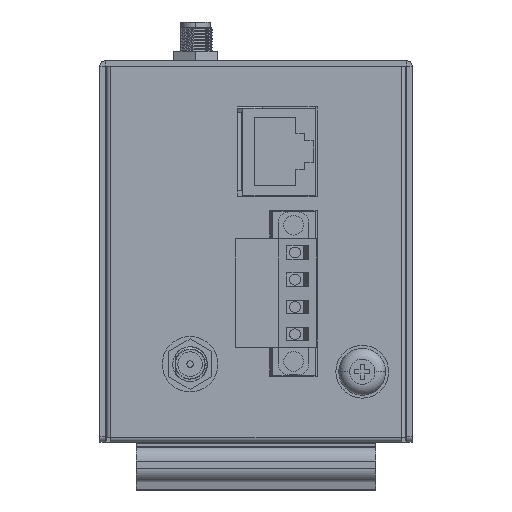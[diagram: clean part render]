
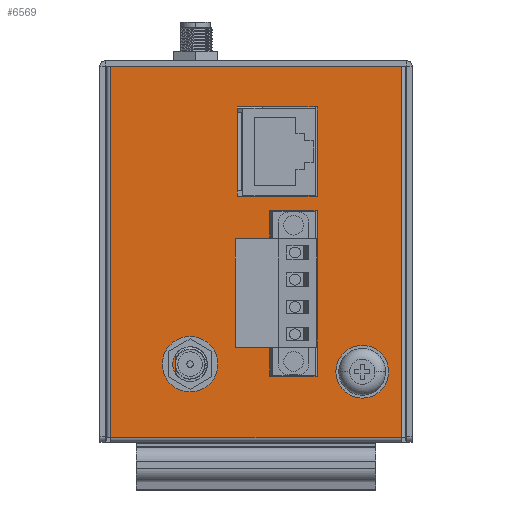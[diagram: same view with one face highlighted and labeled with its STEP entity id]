
A CAD part, front view. The second image highlights one B-rep face of the part: STEP entity #6569.
In plain terms, the highlighted planar face has unit normal (0, -1, 0).
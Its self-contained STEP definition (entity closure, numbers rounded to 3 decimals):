
#1273=DIRECTION('',(1.,0.,0.));
#1274=VECTOR('',#1273,53.4);
#1275=CARTESIAN_POINT('',(-54.2,-57.,34.1));
#1276=LINE('',#1275,#1274);
#1549=DIRECTION('',(-1.,0.,0.));
#1550=VECTOR('',#1549,53.4);
#1551=CARTESIAN_POINT('',(-0.8,-57.,-34.1));
#1552=LINE('',#1551,#1550);
#1553=DIRECTION('',(0.,0.,1.));
#1554=VECTOR('',#1553,1.);
#1555=CARTESIAN_POINT('',(-30.9,-57.,25.6));
#1556=LINE('',#1555,#1554);
#1557=DIRECTION('',(0.,0.,1.));
#1558=VECTOR('',#1557,1.);
#1559=CARTESIAN_POINT('',(-30.9,-57.,10.2));
#1560=LINE('',#1559,#1558);
#1561=DIRECTION('',(-1.,0.,0.));
#1562=VECTOR('',#1561,0.8);
#1563=CARTESIAN_POINT('',(-30.1,-57.,10.2));
#1564=LINE('',#1563,#1562);
#1565=DIRECTION('',(-1.,0.,0.));
#1566=VECTOR('',#1565,13.8);
#1567=CARTESIAN_POINT('',(-16.3,-57.,10.2));
#1568=LINE('',#1567,#1566);
#1569=DIRECTION('',(0.,0.,-1.));
#1570=VECTOR('',#1569,16.4);
#1571=CARTESIAN_POINT('',(-16.3,-57.,26.6));
#1572=LINE('',#1571,#1570);
#1573=DIRECTION('',(1.,0.,0.));
#1574=VECTOR('',#1573,13.8);
#1575=CARTESIAN_POINT('',(-30.1,-57.,26.6));
#1576=LINE('',#1575,#1574);
#1577=DIRECTION('',(1.,0.,0.));
#1578=VECTOR('',#1577,0.8);
#1579=CARTESIAN_POINT('',(-30.9,-57.,26.6));
#1580=LINE('',#1579,#1578);
#1581=DIRECTION('',(0.,0.,1.));
#1582=VECTOR('',#1581,3.464);
#1583=CARTESIAN_POINT('',(-42.35,-57.,-22.332));
#1584=LINE('',#1583,#1582);
#1585=CARTESIAN_POINT('',(-39.6,-57.,-20.6));
#1586=DIRECTION('',(0.,1.,0.));
#1587=DIRECTION('',(0.846,0.,0.533));
#1588=AXIS2_PLACEMENT_3D('',#1585,#1586,#1587);
#1590=CARTESIAN_POINT('',(-39.6,-57.,-20.6));
#1591=DIRECTION('',(0.,1.,0.));
#1592=DIRECTION('',(-0.846,0.,0.533));
#1593=AXIS2_PLACEMENT_3D('',#1590,#1591,#1592);
#1595=DIRECTION('',(0.,0.,1.));
#1596=VECTOR('',#1595,2.1);
#1597=CARTESIAN_POINT('',(-27.6,-57.,-14.375));
#1598=LINE('',#1597,#1596);
#1599=DIRECTION('',(-1.,0.,0.));
#1600=VECTOR('',#1599,2.6);
#1601=CARTESIAN_POINT('',(-25.,-57.,-14.375));
#1602=LINE('',#1601,#1600);
#1603=DIRECTION('',(0.,0.,1.));
#1604=VECTOR('',#1603,8.425);
#1605=CARTESIAN_POINT('',(-25.,-57.,-22.8));
#1606=LINE('',#1605,#1604);
#1607=DIRECTION('',(-1.,0.,0.));
#1608=VECTOR('',#1607,8.7);
#1609=CARTESIAN_POINT('',(-16.3,-57.,-22.8));
#1610=LINE('',#1609,#1608);
#1611=DIRECTION('',(0.,0.,-1.));
#1612=VECTOR('',#1611,30.4);
#1613=CARTESIAN_POINT('',(-16.3,-57.,7.6));
#1614=LINE('',#1613,#1612);
#1615=DIRECTION('',(1.,0.,0.));
#1616=VECTOR('',#1615,8.7);
#1617=CARTESIAN_POINT('',(-25.,-57.,7.6));
#1618=LINE('',#1617,#1616);
#1619=DIRECTION('',(0.,0.,1.));
#1620=VECTOR('',#1619,8.425);
#1621=CARTESIAN_POINT('',(-25.,-57.,-0.825));
#1622=LINE('',#1621,#1620);
#1623=DIRECTION('',(1.,0.,0.));
#1624=VECTOR('',#1623,2.6);
#1625=CARTESIAN_POINT('',(-27.6,-57.,-0.825));
#1626=LINE('',#1625,#1624);
#1627=DIRECTION('',(0.,0.,1.));
#1628=VECTOR('',#1627,2.1);
#1629=CARTESIAN_POINT('',(-27.6,-57.,-2.925));
#1630=LINE('',#1629,#1628);
#1631=DIRECTION('',(-1.,0.,0.));
#1632=VECTOR('',#1631,2.6);
#1633=CARTESIAN_POINT('',(-25.,-57.,-2.925));
#1634=LINE('',#1633,#1632);
#1635=DIRECTION('',(0.,0.,1.));
#1636=VECTOR('',#1635,9.35);
#1637=CARTESIAN_POINT('',(-25.,-57.,-12.275));
#1638=LINE('',#1637,#1636);
#1639=DIRECTION('',(1.,0.,0.));
#1640=VECTOR('',#1639,2.6);
#1641=CARTESIAN_POINT('',(-27.6,-57.,-12.275));
#1642=LINE('',#1641,#1640);
#1643=CARTESIAN_POINT('',(-8.,-57.,-22.));
#1644=DIRECTION('',(0.,1.,0.));
#1645=DIRECTION('',(0.,0.,1.));
#1646=AXIS2_PLACEMENT_3D('',#1643,#1644,#1645);
#1648=CARTESIAN_POINT('',(-8.,-57.,-22.));
#1649=DIRECTION('',(0.,1.,0.));
#1650=DIRECTION('',(0.,0.,-1.));
#1651=AXIS2_PLACEMENT_3D('',#1648,#1649,#1650);
#1653=DIRECTION('',(0.,0.,-1.));
#1654=VECTOR('',#1653,68.2);
#1655=CARTESIAN_POINT('',(-0.8,-57.,34.1));
#1656=LINE('',#1655,#1654);
#1674=DIRECTION('',(0.,0.,1.));
#1675=VECTOR('',#1674,68.2);
#1676=CARTESIAN_POINT('',(-54.2,-57.,-34.1));
#1677=LINE('',#1676,#1675);
#1792=DIRECTION('',(0.,0.,-1.));
#1793=VECTOR('',#1792,14.4);
#1794=CARTESIAN_POINT('',(-30.9,-57.,25.6));
#1795=LINE('',#1794,#1793);
#3796=CARTESIAN_POINT('',(-54.2,-57.,34.1));
#3797=VERTEX_POINT('',#3796);
#3798=CARTESIAN_POINT('',(-0.8,-57.,34.1));
#3799=VERTEX_POINT('',#3798);
#3874=CARTESIAN_POINT('',(-42.35,-57.,-18.868));
#3875=VERTEX_POINT('',#3874);
#3876=CARTESIAN_POINT('',(-42.35,-57.,-22.332));
#3877=VERTEX_POINT('',#3876);
#3916=CARTESIAN_POINT('',(-0.8,-57.,-34.1));
#3917=VERTEX_POINT('',#3916);
#3942=CARTESIAN_POINT('',(-30.9,-57.,11.2));
#3943=VERTEX_POINT('',#3942);
#3944=CARTESIAN_POINT('',(-30.9,-57.,10.2));
#3945=VERTEX_POINT('',#3944);
#4016=CARTESIAN_POINT('',(-54.2,-57.,-34.1));
#4017=VERTEX_POINT('',#4016);
#4022=CARTESIAN_POINT('',(-25.,-57.,-14.375));
#4023=VERTEX_POINT('',#4022);
#4024=CARTESIAN_POINT('',(-25.,-57.,-22.8));
#4025=VERTEX_POINT('',#4024);
#4028=CARTESIAN_POINT('',(-30.1,-57.,10.2));
#4029=VERTEX_POINT('',#4028);
#4036=CARTESIAN_POINT('',(-36.85,-57.,-18.868));
#4037=VERTEX_POINT('',#4036);
#4108=CARTESIAN_POINT('',(-8.,-57.,-24.4));
#4109=VERTEX_POINT('',#4108);
#4110=CARTESIAN_POINT('',(-8.,-57.,-19.6));
#4111=VERTEX_POINT('',#4110);
#4114=CARTESIAN_POINT('',(-16.3,-57.,-22.8));
#4115=VERTEX_POINT('',#4114);
#4118=CARTESIAN_POINT('',(-27.6,-57.,-14.375));
#4119=VERTEX_POINT('',#4118);
#4120=CARTESIAN_POINT('',(-16.3,-57.,10.2));
#4121=VERTEX_POINT('',#4120);
#4122=CARTESIAN_POINT('',(-30.9,-57.,26.6));
#4123=VERTEX_POINT('',#4122);
#4124=CARTESIAN_POINT('',(-30.9,-57.,25.6));
#4125=VERTEX_POINT('',#4124);
#4220=CARTESIAN_POINT('',(-16.3,-57.,7.6));
#4221=VERTEX_POINT('',#4220);
#4224=CARTESIAN_POINT('',(-27.6,-57.,-12.275));
#4225=VERTEX_POINT('',#4224);
#4226=CARTESIAN_POINT('',(-16.3,-57.,26.6));
#4227=VERTEX_POINT('',#4226);
#4228=CARTESIAN_POINT('',(-30.1,-57.,26.6));
#4229=VERTEX_POINT('',#4228);
#4332=CARTESIAN_POINT('',(-25.,-57.,7.6));
#4333=VERTEX_POINT('',#4332);
#4336=CARTESIAN_POINT('',(-25.,-57.,-12.275));
#4337=VERTEX_POINT('',#4336);
#4408=CARTESIAN_POINT('',(-25.,-57.,-0.825));
#4409=VERTEX_POINT('',#4408);
#4410=CARTESIAN_POINT('',(-25.,-57.,-2.925));
#4411=VERTEX_POINT('',#4410);
#4466=CARTESIAN_POINT('',(-27.6,-57.,-0.825));
#4467=VERTEX_POINT('',#4466);
#4468=CARTESIAN_POINT('',(-27.6,-57.,-2.925));
#4469=VERTEX_POINT('',#4468);
#6498=CARTESIAN_POINT('',(-0.8,-57.,-34.1));
#6499=DIRECTION('',(0.,1.,0.));
#6500=DIRECTION('',(0.,0.,-1.));
#6501=AXIS2_PLACEMENT_3D('',#6498,#6499,#6500);
#6502=PLANE('',#6501);
#6504=ORIENTED_EDGE('',*,*,#6503,.T.);
#6505=ORIENTED_EDGE('',*,*,#6493,.T.);
#6507=ORIENTED_EDGE('',*,*,#6506,.T.);
#6508=ORIENTED_EDGE('',*,*,#6211,.T.);
#6509=EDGE_LOOP('',(#6504,#6505,#6507,#6508));
#6510=FACE_OUTER_BOUND('',#6509,.F.);
#6512=ORIENTED_EDGE('',*,*,#6511,.F.);
#6514=ORIENTED_EDGE('',*,*,#6513,.T.);
#6516=ORIENTED_EDGE('',*,*,#6515,.F.);
#6518=ORIENTED_EDGE('',*,*,#6517,.F.);
#6520=ORIENTED_EDGE('',*,*,#6519,.F.);
#6522=ORIENTED_EDGE('',*,*,#6521,.F.);
#6524=ORIENTED_EDGE('',*,*,#6523,.F.);
#6526=ORIENTED_EDGE('',*,*,#6525,.F.);
#6527=EDGE_LOOP('',(#6512,#6514,#6516,#6518,#6520,#6522,#6524,#6526));
#6528=FACE_BOUND('',#6527,.F.);
#6530=ORIENTED_EDGE('',*,*,#6529,.F.);
#6532=ORIENTED_EDGE('',*,*,#6531,.F.);
#6534=ORIENTED_EDGE('',*,*,#6533,.F.);
#6535=EDGE_LOOP('',(#6530,#6532,#6534));
#6536=FACE_BOUND('',#6535,.F.);
#6538=ORIENTED_EDGE('',*,*,#6537,.F.);
#6540=ORIENTED_EDGE('',*,*,#6539,.F.);
#6542=ORIENTED_EDGE('',*,*,#6541,.F.);
#6544=ORIENTED_EDGE('',*,*,#6543,.F.);
#6546=ORIENTED_EDGE('',*,*,#6545,.F.);
#6548=ORIENTED_EDGE('',*,*,#6547,.F.);
#6550=ORIENTED_EDGE('',*,*,#6549,.F.);
#6552=ORIENTED_EDGE('',*,*,#6551,.F.);
#6554=ORIENTED_EDGE('',*,*,#6553,.F.);
#6556=ORIENTED_EDGE('',*,*,#6555,.F.);
#6558=ORIENTED_EDGE('',*,*,#6557,.F.);
#6560=ORIENTED_EDGE('',*,*,#6559,.F.);
#6561=EDGE_LOOP('',(#6538,#6540,#6542,#6544,#6546,#6548,#6550,#6552,#6554,#6556,
#6558,#6560));
#6562=FACE_BOUND('',#6561,.F.);
#6564=ORIENTED_EDGE('',*,*,#6563,.F.);
#6566=ORIENTED_EDGE('',*,*,#6565,.F.);
#6567=EDGE_LOOP('',(#6564,#6566));
#6568=FACE_BOUND('',#6567,.F.);
#6569=ADVANCED_FACE('',(#6510,#6528,#6536,#6562,#6568),#6502,.F.);
#1589=CIRCLE('',#1588,3.25);
#1594=CIRCLE('',#1593,3.25);
#1647=CIRCLE('',#1646,2.4);
#1652=CIRCLE('',#1651,2.4);
#6211=EDGE_CURVE('',#3797,#3799,#1276,.T.);
#6493=EDGE_CURVE('',#3917,#4017,#1552,.T.);
#6503=EDGE_CURVE('',#3799,#3917,#1656,.T.);
#6506=EDGE_CURVE('',#4017,#3797,#1677,.T.);
#6511=EDGE_CURVE('',#4125,#4123,#1556,.T.);
#6513=EDGE_CURVE('',#4125,#3943,#1795,.T.);
#6515=EDGE_CURVE('',#3945,#3943,#1560,.T.);
#6517=EDGE_CURVE('',#4029,#3945,#1564,.T.);
#6519=EDGE_CURVE('',#4121,#4029,#1568,.T.);
#6521=EDGE_CURVE('',#4227,#4121,#1572,.T.);
#6523=EDGE_CURVE('',#4229,#4227,#1576,.T.);
#6525=EDGE_CURVE('',#4123,#4229,#1580,.T.);
#6529=EDGE_CURVE('',#3877,#3875,#1584,.T.);
#6531=EDGE_CURVE('',#4037,#3877,#1589,.T.);
#6533=EDGE_CURVE('',#3875,#4037,#1594,.T.);
#6537=EDGE_CURVE('',#4119,#4225,#1598,.T.);
#6539=EDGE_CURVE('',#4023,#4119,#1602,.T.);
#6541=EDGE_CURVE('',#4025,#4023,#1606,.T.);
#6543=EDGE_CURVE('',#4115,#4025,#1610,.T.);
#6545=EDGE_CURVE('',#4221,#4115,#1614,.T.);
#6547=EDGE_CURVE('',#4333,#4221,#1618,.T.);
#6549=EDGE_CURVE('',#4409,#4333,#1622,.T.);
#6551=EDGE_CURVE('',#4467,#4409,#1626,.T.);
#6553=EDGE_CURVE('',#4469,#4467,#1630,.T.);
#6555=EDGE_CURVE('',#4411,#4469,#1634,.T.);
#6557=EDGE_CURVE('',#4337,#4411,#1638,.T.);
#6559=EDGE_CURVE('',#4225,#4337,#1642,.T.);
#6563=EDGE_CURVE('',#4111,#4109,#1647,.T.);
#6565=EDGE_CURVE('',#4109,#4111,#1652,.T.);
